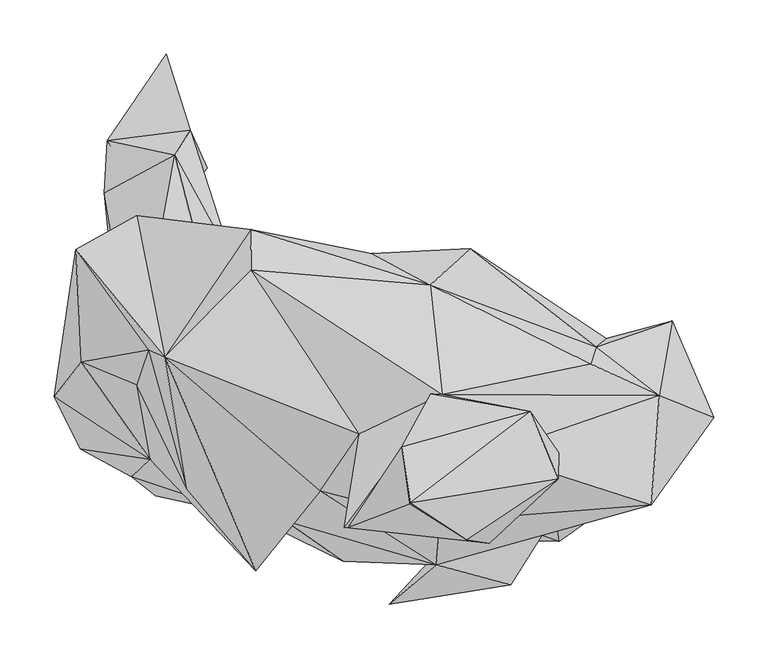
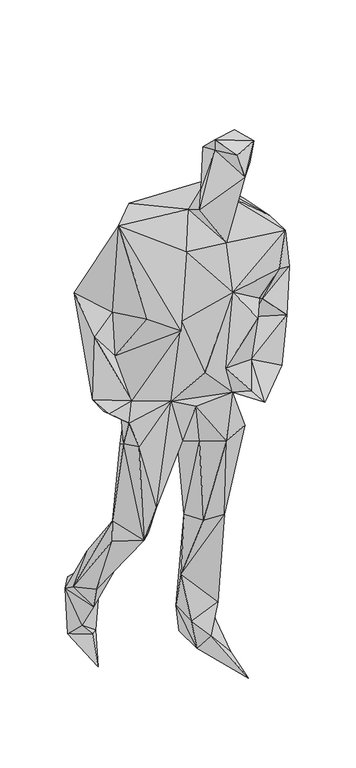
"""IFC4 building model written with IfcOpenShell, lengths in millimetres: geographic element geometry, Enscape AssetDefinition - Lars, Walking : Enscape AssetDefinition - Lars, Walking."""

from ifc_helpers import new_model, si_unit, origin, place, context, project, spatial, faceted_brep, source, transform, mapped, element, save


def geographic_element_6033e373(model_context):
    return source(origin(), model_context, "Body", "Brep", [
        faceted_brep([(-51.3655916, -119.5357442, 1263.2945776), (-81.8659738, -116.0400361, 1004.0558577), (2.1528152, -157.0385247, 1093.9640999), (-120.1006919, -102.9301658, 656.0587287), (-46.0770465, -116.3870096, 860.5251312), (-176.2328744, -62.6926199, 1006.9556236), (-193.3624148, -78.9822266, 946.6577172), (-171.0753143, -96.4037254, 871.1442947), (99.7494385, -137.3642236, 984.1355085), (-13.6078326, -134.4074756, 974.3334651), (-194.1323429, -49.90872, 862.4370098), (-146.9863802, -80.3811029, 540.9916043), (-154.6547264, 36.2848863, 795.2897549), (-95.1408371, 79.5211717, 1008.6014271), (-189.9597049, 16.8195572, 563.256681), (-181.9623858, -14.1237881, 947.4966526), (-74.2906258, 11.6809979, 640.0620937), (-66.5792897, 49.1887815, 804.230988), (-4.0066564, -5.222552, 843.192637), (52.6564829, 90.5762315, 907.0481658), (68.1241602, 96.3087305, 981.2598228), (126.1251718, 54.7793023, 883.8701844), (77.9803097, 58.0800138, 856.2205434), (28.1565841, 127.6440471, 1103.7043333), (145.5165148, 77.7903199, 1019.7225809), (230.1472574, -10.1721277, 1041.3446426), (119.31476, 132.365644, 1121.322751), (235.6917709, 41.3144566, 1395.2072859), (244.9879795, 48.8508083, 1140.0141716), (82.5469121, 98.2585698, 1428.6744595), (317.8397119, 12.6459142, 1057.3602915), (222.7678895, -100.2034023, 890.1885748), (305.9897423, 65.2114004, 1160.3344679), (294.0427661, -3.8776672, 1425.449729), (230.7711989, 25.377823, 1486.032486), (344.5994258, -23.9239484, 1249.6128082), (313.034147, -64.583458, 1122.9835749), (292.2659218, -74.2046311, 967.6699638), (286.6454124, -104.6540216, 1438.6845827), (241.4952815, -55.9881963, 1195.9674358), (265.0542557, -108.0517247, 1320.6176758), (194.0353662, -79.0532157, 1024.7820616), (226.3555825, -26.3107419, 1123.8905191), (201.7377019, -138.4961158, 915.8204198), (166.7477041, -126.2231618, 957.7528238), (44.6521677, -196.7131197, 1119.5859909), (87.9094601, -160.1132601, 1335.2633715), (156.9665372, -178.5796881, 1235.1980209), (209.758997, -95.213823, 1233.541131), (138.8250887, -57.3840775, 1573.7249851), (91.2071764, -119.8857129, 1474.8095274), (93.6779603, -2.6147757, 1610.8658314), (137.0892376, -140.2469724, 1690.1729107), (201.2597322, -56.6851385, 1667.0179367), (200.8147687, -80.68607, 1753.2485723), (116.3210124, -137.3992115, 1769.0591812), (63.45056, -103.9610803, 1783.2509279), (3.2767188, -125.4692376, 1619.2070246), (174.7040153, -18.7273938, 1761.220932), (63.9745072, -102.9981673, 1817.4129725), (56.1671779, -51.0876179, 1766.1864758), (6.655429, -125.6072223, 1688.0751848), (17.1605274, -39.1166434, 1562.8018379), (82.8108937, -2.517784, 1695.1626539), (-82.8208923, 112.2913584, 1527.2228718), (-162.8530174, 31.70228, 1528.2918215), (-19.1653557, -92.0621008, 1465.9731388), (-78.7682384, -165.9807712, 1268.4692144), (-142.2597915, -89.7952914, 1283.3098173), (-188.6338145, 6.2624626, 1119.0639734), (-264.9822533, -4.6166037, 1006.1196089), (-239.7334129, 27.4736434, 1186.0702038), (-241.026327, -52.8474674, 980.473876), (-177.7137518, 38.4107046, 1240.5335903), (-245.0159788, 131.3777268, 1272.449851), (-232.3460728, -7.5083557, 958.224833), (-188.4318292, 162.7130359, 1220.1672792), (-183.3372712, 70.6129447, 1080.9673071), (-83.3618417, 149.6781558, 1440.3322935), (-137.7371848, 124.2393404, 1254.8793554), (-156.2895924, 78.6232501, 994.7086573), (87.7924636, -126.4131516, 818.9937472), (153.4438431, -113.5452613, 839.5459652), (14.6767413, -103.8370878, 829.4658065), (64.345479, -41.4114483, 510.7791424), (131.5507144, -39.2226353, 505.3456426), (162.6110524, 24.0109395, 810.770452), (77.6673332, 60.950771, 578.8093209), (155.3026736, 26.9286893, 508.7263584), (159.0773463, 66.4472952, 243.2731241), (66.8112636, 115.2421087, 130.9537739), (39.7135913, 22.3030858, 501.5699863), (137.6571953, 7.5383531, 184.4451725), (135.4533732, 33.9190885, 132.3966384), (125.7752031, 89.7703022, 129.2499006), (101.3033092, -18.6234023, 98.9935026), (40.6075157, 41.4934419, 288.5782421), (60.004849, 18.7043957, 139.7410035), (167.7156091, -7.8833234, 17.8634673), (116.2230223, 106.4848602, 71.5388581), (78.8972303, 117.5509095, 41.1484689), (146.7974037, -143.5336769, 17.321514), (72.955735, 10.4531031, 50.1027033), (-94.3549052, -11.9409757, 505.812645), (-103.6211103, 26.0147676, 565.8724308), (-100.3223956, 121.2645918, 342.9035842), (-153.4768343, 218.7392265, 327.9878795), (-218.4872478, 183.4872514, 251.7623901), (-199.9708414, 0.5489529, 508.0834031), (-195.0182617, 96.4757279, 287.6433134), (-175.4649431, 146.5134323, 191.6795522), (-139.4060403, 241.7162657, 258.8797808), (-216.0204798, 232.0040911, 217.0883566), (-189.7757202, 184.5751703, 111.9333953), (-123.6433908, 206.5622807, 179.3396026), (-132.308647, 210.215956, 61.6167113), (-161.4761502, 311.9172454, 187.3819232), (-213.4926915, 222.760886, 69.9250028), (-164.7378653, 170.6053615, 84.0497836), (-177.7937412, 117.6768988, 10.3341127)], [[[0, 1, 2]], [[1, 3, 4]], [[0, 5, 1]], [[1, 6, 7]], [[7, 3, 1]], [[2, 1, 8]], [[1, 4, 9]], [[9, 8, 1]], [[6, 1, 5]], [[7, 10, 11]], [[7, 6, 10]], [[3, 7, 11]], [[12, 10, 13]], [[14, 11, 10]], [[12, 14, 10]], [[13, 10, 15]], [[15, 10, 6]], [[14, 12, 16]], [[12, 17, 16]], [[12, 13, 17]], [[18, 17, 19]], [[17, 13, 20]], [[20, 19, 17]], [[18, 16, 17]], [[19, 20, 21]], [[19, 21, 22]], [[22, 18, 19]], [[20, 13, 23]], [[20, 23, 24]], [[24, 21, 20]], [[25, 24, 26]], [[24, 23, 26]], [[25, 21, 24]], [[27, 28, 26]], [[29, 26, 23]], [[27, 26, 29]], [[26, 28, 25]], [[30, 31, 25]], [[32, 30, 25]], [[28, 32, 25]], [[25, 31, 21]], [[32, 28, 27]], [[32, 27, 33]], [[29, 34, 27]], [[34, 33, 27]], [[32, 33, 35]], [[32, 35, 30]], [[30, 35, 36]], [[37, 31, 30]], [[30, 36, 37]], [[33, 38, 35]], [[39, 35, 40]], [[35, 39, 36]], [[35, 38, 40]], [[41, 37, 36]], [[36, 42, 41]], [[39, 42, 36]], [[43, 31, 37]], [[37, 41, 43]], [[43, 8, 31]], [[31, 8, 21]], [[43, 41, 44]], [[8, 43, 44]], [[44, 41, 45]], [[8, 44, 45]], [[45, 46, 8]], [[45, 47, 46]], [[45, 41, 47]], [[47, 48, 46]], [[48, 47, 41]], [[48, 40, 46]], [[48, 41, 42]], [[40, 48, 39]], [[39, 48, 42]], [[46, 40, 38]], [[49, 38, 33]], [[38, 49, 50]], [[46, 38, 50]], [[51, 49, 33]], [[51, 33, 34]], [[52, 50, 49]], [[52, 49, 53]], [[49, 51, 53]], [[52, 54, 55]], [[56, 57, 52]], [[57, 50, 52]], [[54, 52, 53]], [[56, 52, 55]], [[58, 53, 51]], [[53, 58, 54]], [[54, 59, 55]], [[58, 59, 54]], [[56, 55, 59]], [[56, 60, 61]], [[60, 56, 59]], [[57, 56, 61]], [[62, 50, 57]], [[51, 62, 57]], [[51, 57, 61]], [[60, 51, 61]], [[59, 58, 60]], [[60, 58, 63]], [[63, 51, 60]], [[63, 58, 51]], [[64, 51, 29]], [[51, 34, 29]], [[62, 51, 64]], [[64, 65, 62]], [[66, 50, 62]], [[62, 65, 66]], [[46, 50, 66]], [[67, 66, 65]], [[66, 0, 46]], [[66, 67, 0]], [[0, 2, 46]], [[2, 8, 46]], [[5, 0, 67]], [[67, 65, 68]], [[68, 69, 67]], [[5, 67, 69]], [[70, 5, 71]], [[69, 71, 5]], [[72, 5, 70]], [[6, 5, 72]], [[71, 69, 73]], [[73, 69, 68]], [[68, 65, 73]], [[74, 73, 65]], [[73, 74, 71]], [[74, 70, 71]], [[74, 75, 70]], [[72, 70, 75]], [[6, 72, 75]], [[75, 15, 6]], [[75, 76, 77]], [[15, 75, 77]], [[74, 76, 75]], [[65, 76, 74]], [[76, 65, 78]], [[78, 65, 64]], [[76, 78, 79]], [[79, 77, 76]], [[23, 80, 77]], [[80, 15, 77]], [[79, 23, 77]], [[80, 13, 15]], [[13, 80, 23]], [[78, 29, 23]], [[23, 79, 78]], [[64, 29, 78]], [[81, 8, 9]], [[81, 82, 8]], [[82, 21, 8]], [[83, 81, 9]], [[4, 83, 9]], [[83, 84, 81]], [[85, 82, 81]], [[85, 81, 84]], [[86, 82, 85]], [[82, 86, 21]], [[21, 86, 22]], [[87, 86, 88]], [[86, 87, 22]], [[86, 85, 88]], [[22, 87, 18]], [[87, 88, 89]], [[90, 87, 89]], [[87, 90, 91]], [[18, 87, 91]], [[89, 88, 85]], [[89, 85, 92]], [[89, 92, 93]], [[90, 89, 94]], [[93, 94, 89]], [[93, 92, 95]], [[92, 85, 96]], [[97, 95, 92]], [[96, 97, 92]], [[93, 95, 98]], [[93, 98, 99]], [[99, 94, 93]], [[99, 90, 94]], [[99, 98, 100]], [[100, 90, 99]], [[100, 98, 101]], [[101, 98, 95]], [[97, 102, 95]], [[101, 95, 102]], [[90, 102, 97]], [[96, 90, 97]], [[100, 101, 102]], [[90, 100, 102]], [[91, 90, 96]], [[96, 84, 91]], [[83, 91, 84]], [[18, 91, 83]], [[96, 85, 84]], [[18, 4, 16]], [[18, 83, 4]], [[4, 3, 16]], [[3, 103, 16]], [[103, 104, 16]], [[14, 16, 104]], [[11, 103, 3]], [[104, 103, 105]], [[103, 11, 105]], [[106, 14, 104]], [[105, 106, 104]], [[107, 14, 106]], [[14, 107, 108]], [[108, 11, 14]], [[108, 109, 11]], [[109, 105, 11]], [[110, 111, 105]], [[111, 106, 105]], [[110, 105, 109]], [[106, 112, 107]], [[111, 112, 106]], [[109, 108, 107]], [[110, 107, 112]], [[110, 109, 107]], [[113, 110, 112]], [[110, 113, 114]], [[111, 110, 114]], [[111, 114, 115]], [[115, 116, 111]], [[116, 112, 111]], [[116, 117, 112]], [[113, 112, 117]], [[113, 115, 114]], [[117, 118, 113]], [[118, 115, 113]], [[117, 116, 115]], [[119, 117, 115]], [[118, 119, 115]], [[118, 117, 119]]]),
    ])


if __name__ == "__main__":
    model = new_model("IFC4")
    model_context = context("Model", 3, world=origin())
    ifc_project = project(units=[si_unit("LENGTHUNIT", "METRE", prefix="MILLI")], contexts=[model_context])
    site = spatial("IfcSite", under=ifc_project)
    building = spatial("IfcBuilding", under=site)
    placement = place(None, origin())
    geographic_element_shape = geographic_element_6033e373(model_context)
    element("IfcGeographicElement", 1, ObjectType="Enscape AssetDefinition - Lars, Walking : Enscape AssetDefinition - Lars, Walking", at=placement, inside=building, context=model_context, shape_type="MappedRepresentation", body=[
        mapped(geographic_element_shape, transform((0.0, 0.0, 0.0), x_axis=(1.0, 0.0, 0.0), y_axis=(0.0, 1.0, 0.0), z_axis=(0.0, 0.0, 1.0))),
    ])
    save(model, "model.ifc")
